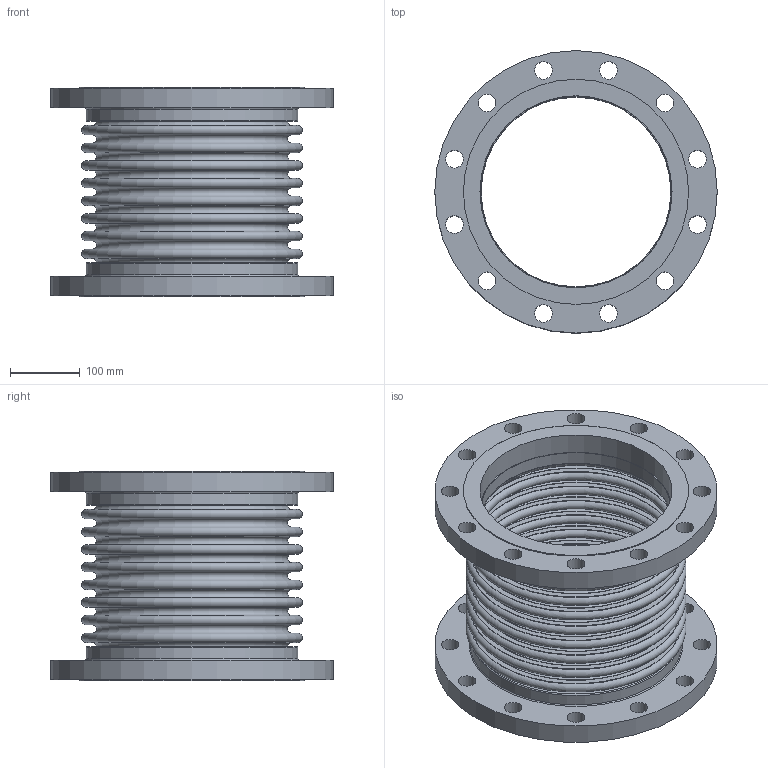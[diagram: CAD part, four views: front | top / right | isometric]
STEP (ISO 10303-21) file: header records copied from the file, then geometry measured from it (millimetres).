
FILE_DESCRIPTION(/* description */ ('EXPANSION JOINT,SINGLE, FLANGED ENDS,10 INCH NOMINAL','CAx-IF Rec.Pracs.---Representation and Presentation of Product Manufacturing Information (PMI)---4.0---2014-10-13'),/* implementation_level */ '2;1');
FILE_NAME(/* name */ 'US-10-8-85S-FLANGED ENDS.stp',/* time_stamp */ '2026-07-31T18:02:55-05:00',/* author */ ('Guadalupe'),/* organization */ (''),/* preprocessor_version */ 'ST-DEVELOPER v20.1',/* originating_system */ 'Autodesk Inventor 2026',/* authorisation */ '');
FILE_SCHEMA (('AP242_MANAGED_MODEL_BASED_3D_ENGINEERING_MIM_LF { 1 0 10303 442 2 1 4 }'));
Length unit declared in the file: inch
Products named in the file (3): 10-85S; 10-85S-02; 10-85S-01
Assembly tree (3 placements, depth 2):
  10-85S
    10-85S-02  x2
    10-85S-01
Bounding box: 406.4 x 406.4 x 301.75 mm (x, y, z)
Volume: 4608890 mm3; surface area: 1422951.7 mm2
Topology: 5 solids, 5 shells, 120 faces, 222 edges, 148 vertices
Faces by surface type: plane 46, torus 38, cylinder 36
Full cylindrical faces by diameter (mm): 25.4 x24, 273.05 x2, 274.879 x2, 276.352 x2, 304.8 x2, 323.85 x2, 406.4 x2
Entity records: 2714 total; most frequent: DIRECTION 550, CARTESIAN_POINT 401, ORIENTED_EDGE 336, AXIS2_PLACEMENT_3D 265, EDGE_CURVE 168, EDGE_LOOP 164, CIRCLE 148, VERTEX_POINT 112
